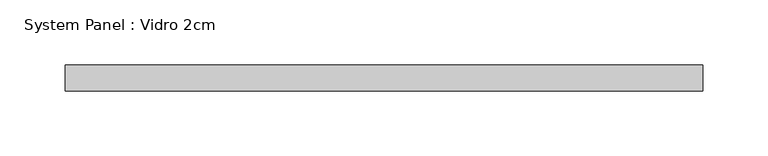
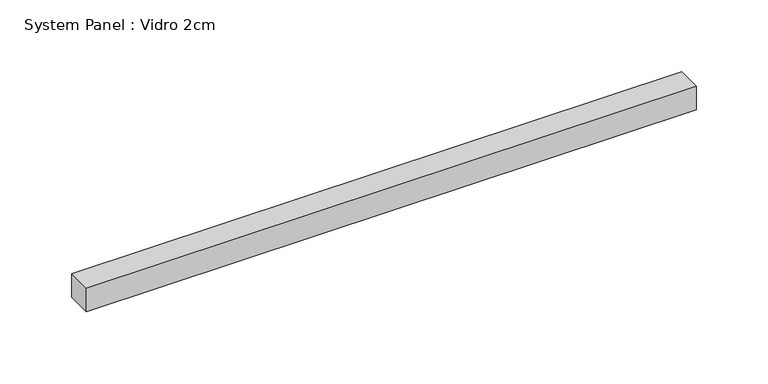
"""IFC4 building model written with IfcOpenShell, lengths in millimetres: plate geometry, System Panel : Vidro 2cm."""

import ifcopenshell
import ifcopenshell.guid

model = None  # the IFC model being written
_history = None  # IfcOwnerHistory: only IFC2X3 demands one
_inside = {}  # id of a spatial element -> (the spatial element, [elements in it])
_under = {}  # id of a project, library or spatial element -> (it, [spatial elements below it])
_declared = {}  # id of a project -> (the project, [libraries it declares])
_typed = {}  # id of a type object -> (the type object, [elements of that type])
_made_of = {}  # id of a material, layer set ... -> (it, [elements and type objects made of it])


def new_model(schema):
    """Start an empty IFC model of exactly this schema.

    Asked for "IFC4X3", IfcOpenShell would pick the latest addendum, in which some entities
    have other attributes; the version numbers below select the first issue.
    IFC2X3 requires an IfcOwnerHistory on every rooted entity: one is made here for all.
    """
    global model, _history
    if schema == "IFC4X3":
        model = ifcopenshell.file(schema_version=(4, 3, 0, 0))
    else:
        model = ifcopenshell.file(schema=schema)
    _inside.clear()
    _under.clear()
    _declared.clear()
    _typed.clear()
    _made_of.clear()
    _history = None
    if model.schema == "IFC2X3":
        org = make("IfcOrganization", Name="unknown")
        user = make(
            "IfcPersonAndOrganization",
            ThePerson=make("IfcPerson", FamilyName="unknown"),
            TheOrganization=org,
        )
        app = make(
            "IfcApplication",
            ApplicationDeveloper=org,
            Version="unknown",
            ApplicationFullName="unknown",
            ApplicationIdentifier="unknown",
        )
        _history = make(
            "IfcOwnerHistory",
            OwningUser=user,
            OwningApplication=app,
            ChangeAction="ADDED",
            CreationDate=0,
        )
    return model


def make(cls, **values):
    """One entity of the class cls with the attributes given. An attribute that is None is left unset."""
    return model.create_entity(
        cls, **{name: value for name, value in values.items() if value is not None}
    )


def rooted(cls, **values):
    """An entity with a GlobalId (a new one), such as an element, a storey or a relation."""
    return make(cls, GlobalId=ifcopenshell.guid.new(), OwnerHistory=_history, **values)


def si_unit(unit_type, name, prefix=None):
    """IfcSIUnit, for example si_unit("LENGTHUNIT", "METRE", prefix="MILLI")."""
    return make("IfcSIUnit", UnitType=unit_type, Prefix=prefix, Name=name)


def assignment(units):
    """IfcUnitAssignment: the units of a project."""
    return None if units is None else make("IfcUnitAssignment", Units=units)


def point(xyz):
    """IfcCartesianPoint."""
    return None if xyz is None else make("IfcCartesianPoint", Coordinates=xyz)


def direction(xyz):
    """IfcDirection."""
    return None if xyz is None else make("IfcDirection", DirectionRatios=xyz)


def frame(location, z_axis=None, x_axis=None):
    """IfcAxis2Placement3D, a coordinate frame: its origin and axes. An axis left out is left unset."""
    return make(
        "IfcAxis2Placement3D",
        Location=point(location),
        Axis=direction(z_axis),
        RefDirection=direction(x_axis),
    )


def origin():
    """The frame at (0, 0, 0) with its axes left unset."""
    return frame((0.0, 0.0, 0.0))


def origin_with_axes():
    """The frame at (0, 0, 0) with the z axis (0, 0, 1) and the x axis (1, 0, 0) written out."""
    return frame((0.0, 0.0, 0.0), z_axis=(0.0, 0.0, 1.0), x_axis=(1.0, 0.0, 0.0))


def place(relative_to, where):
    """IfcLocalPlacement: puts the frame where relative to a parent placement (None: the world)."""
    return make(
        "IfcLocalPlacement", PlacementRelTo=relative_to, RelativePlacement=where
    )


def context(
    kind, dimensions, precision=None, world=None, true_north=None, identifier=None
):
    """IfcGeometricRepresentationContext, for example the 3D "Model" context."""
    return make(
        "IfcGeometricRepresentationContext",
        ContextIdentifier=identifier,
        ContextType=kind,
        CoordinateSpaceDimension=dimensions,
        Precision=precision,
        WorldCoordinateSystem=world,
        TrueNorth=true_north,
    )


def project(units=None, contexts=None):
    """IfcProject with its units and contexts."""
    return rooted(
        "IfcProject",
        Name="project",
        RepresentationContexts=contexts,
        UnitsInContext=assignment(units),
    )


def spatial(cls, under=None, at=None, **own):
    """A site, building, storey or space (cls), placed at a placement, below another one or the project."""
    s = rooted(cls, ObjectPlacement=at, **own)
    if under is not None:
        _under.setdefault(under.id(), (under, []))[1].append(s)
    return s


def polyline(points):
    """IfcPolyline through the points."""
    return make("IfcPolyline", Points=[point(p) for p in points])


def outline(outer, holes=None, kind="AREA"):
    """IfcArbitraryClosedProfileDef: a profile drawn as a closed curve; with holes, ...WithVoids."""
    if holes is None:
        return make("IfcArbitraryClosedProfileDef", ProfileType=kind, OuterCurve=outer)
    return make(
        "IfcArbitraryProfileDefWithVoids",
        ProfileType=kind,
        OuterCurve=outer,
        InnerCurves=holes,
    )


def extrude(swept, where, along, depth):
    """IfcExtrudedAreaSolid: the profile swept, set in the frame where, extruded along a direction by depth."""
    return make(
        "IfcExtrudedAreaSolid",
        SweptArea=swept,
        Position=where,
        ExtrudedDirection=direction(along),
        Depth=depth,
    )


def shape(context_of_items, identifier, shape_type, items):
    """IfcShapeRepresentation: the items that make up one representation, for example the "Body"."""
    return make(
        "IfcShapeRepresentation",
        ContextOfItems=context_of_items,
        RepresentationIdentifier=identifier,
        RepresentationType=shape_type,
        Items=items,
    )


def source(mapping_origin, context_of_items, identifier, shape_type, items):
    """IfcRepresentationMap: a shape defined once, which mapped items show again and again."""
    return make(
        "IfcRepresentationMap",
        MappingOrigin=mapping_origin,
        MappedRepresentation=shape(context_of_items, identifier, shape_type, items),
    )


def transform(
    local_origin,
    x_axis=None,
    y_axis=None,
    z_axis=None,
    scale=None,
    scale2=None,
    scale3=None,
    uniform=True,
):
    """IfcCartesianTransformationOperator3D, or its non-uniform kind. x_axis, y_axis, z_axis: its Axis1, 2, 3."""
    if uniform:
        return make(
            "IfcCartesianTransformationOperator3D",
            Axis1=direction(x_axis),
            Axis2=direction(y_axis),
            LocalOrigin=point(local_origin),
            Scale=scale,
            Axis3=direction(z_axis),
        )
    return make(
        "IfcCartesianTransformationOperator3DnonUniform",
        Axis1=direction(x_axis),
        Axis2=direction(y_axis),
        LocalOrigin=point(local_origin),
        Scale=scale,
        Axis3=direction(z_axis),
        Scale2=scale2,
        Scale3=scale3,
    )


def mapped(mapping_source, mapping_target):
    """IfcMappedItem: shows the shape of a source again, moved by a transform."""
    return make(
        "IfcMappedItem", MappingSource=mapping_source, MappingTarget=mapping_target
    )


def made_of(thing, what):
    """Note that an element or type object is made of a material, layer set ...; save() writes the relation."""
    if what is not None:
        _made_of.setdefault(what.id(), (what, []))[1].append(thing)
    return thing


def element(
    cls,
    number,
    at=None,
    inside=None,
    cuts=None,
    type_object=None,
    material=None,
    context=None,
    identifier="Body",
    shape_type=None,
    held_by="IfcProductDefinitionShape",
    body=None,
    shapes=None,
    **own,
):
    """One element of the class cls, such as IfcWall. Its Tag is "e" and its number.

    at: its placement. inside: the storey or other place that contains it. cuts: it is an
    opening in that element (IfcRelVoidsElement). A single representation is given by context,
    identifier, shape_type and body (its items); several are given by shapes. held_by: the class
    of the entity that holds the representations. save() writes the other relations.
    """
    e = rooted(cls, Tag="e%d" % number, ObjectPlacement=at, **own)
    if body is not None:
        shapes = [shape(context, identifier, shape_type, body)]
    if shapes is not None:
        e.Representation = make(held_by, Representations=shapes)
    if inside is not None:
        _inside.setdefault(inside.id(), (inside, []))[1].append(e)
    if cuts is not None:
        rooted(
            "IfcRelVoidsElement", RelatingBuildingElement=cuts, RelatedOpeningElement=e
        )
    if type_object is not None:
        _typed.setdefault(type_object.id(), (type_object, []))[1].append(e)
    return made_of(e, material)


def aggregate(whole, parts):
    """IfcRelAggregates: a whole, such as a stair, and the parts it consists of."""
    return rooted("IfcRelAggregates", RelatingObject=whole, RelatedObjects=parts)


def save(model, path):
    """Write the relations noted so far, then the file.

    IfcRelAggregates (storeys below a building ...), IfcRelContainedInSpatialStructure (elements
    in a storey), IfcRelDefinesByType, IfcRelAssociatesMaterial and IfcRelDeclares: one each for
    every whole, place, type object, material and project.
    """
    for whole, parts in _under.values():
        aggregate(whole, parts)
    for where, things in _inside.values():
        rooted(
            "IfcRelContainedInSpatialStructure",
            RelatedElements=things,
            RelatingStructure=where,
        )
    for kind, things in _typed.values():
        rooted("IfcRelDefinesByType", RelatedObjects=things, RelatingType=kind)
    for what, things in _made_of.values():
        rooted("IfcRelAssociatesMaterial", RelatedObjects=things, RelatingMaterial=what)
    for by, libraries in _declared.values():
        rooted("IfcRelDeclares", RelatingContext=by, RelatedDefinitions=libraries)
    model.write(path)


def system_panel_vidro_2cm_fb46c9e9(model_context):
    return source(origin(), model_context, "Body", "SweptSolid", [
        extrude(outline(polyline([(245.0, 0.0), (-245.0, 0.0), (-245.0, 20.0), (245.0, 20.0), (245.0, 0.0)])), origin_with_axes(), (0.0, 0.0, 1.0), 20.0),
    ])


if __name__ == "__main__":
    model = new_model("IFC4")
    model_context = context("Model", 3, world=origin())
    ifc_project = project(units=[si_unit("LENGTHUNIT", "METRE", prefix="MILLI")], contexts=[model_context])
    site = spatial("IfcSite", under=ifc_project)
    building = spatial("IfcBuilding", under=site)
    placement = place(None, origin())
    system_panel_vidro_2cm_shape = system_panel_vidro_2cm_fb46c9e9(model_context)
    element("IfcPlate", 1, ObjectType="System Panel : Vidro 2cm", at=placement, inside=building, context=model_context, shape_type="MappedRepresentation", body=[
        mapped(system_panel_vidro_2cm_shape, transform((0.0, 0.0, 0.0), x_axis=(1.0, 0.0, 0.0), y_axis=(0.0, 1.0, 0.0), z_axis=(0.0, 0.0, 1.0))),
    ])
    save(model, "model.ifc")
